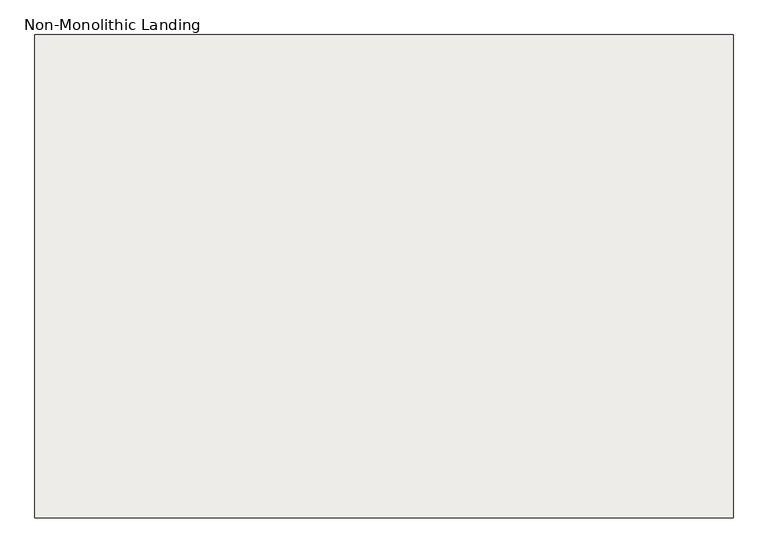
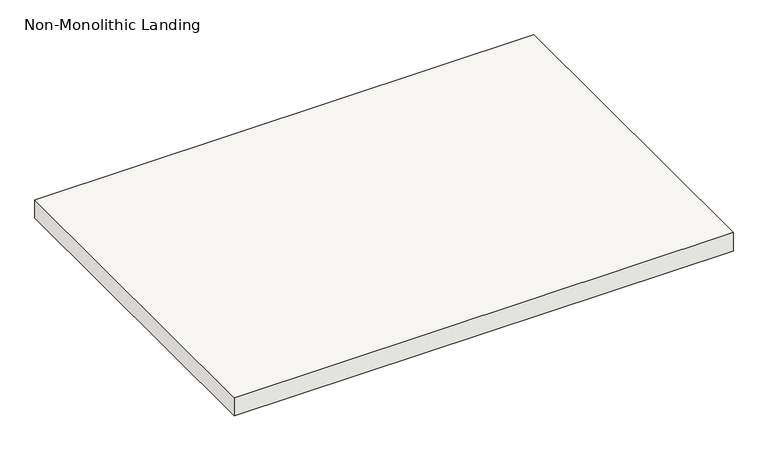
"""IFC4 building model written with IfcOpenShell, lengths in millimetres: slab geometry, Non-Monolithic Landing."""

from ifc_helpers import new_model, si_unit, frame, origin, place, context, project, spatial, polyline, outline, extrude, source, transform, mapped, element, save


def non_monolithic_landing_48cf3190(model_context):
    return source(origin(), model_context, "Body", "SweptSolid", [
        extrude(outline(polyline([(32923.1991768, 29614.9361774), (34243.9991768, 29614.9361774), (34243.9991768, 28700.5361774), (32923.1991768, 28700.5361774), (32923.1991768, 29614.9361774)])), frame((0.0, 0.0, 2126.3428571), z_axis=(0.0, 0.0, 1.0), x_axis=(1.0, 0.0, 0.0)), (0.0, 0.0, 1.0), 50.8),
    ])


if __name__ == "__main__":
    model = new_model("IFC4")
    model_context = context("Model", 3, world=origin())
    ifc_project = project(units=[si_unit("LENGTHUNIT", "METRE", prefix="MILLI")], contexts=[model_context])
    site = spatial("IfcSite", under=ifc_project)
    building = spatial("IfcBuilding", under=site)
    placement = place(None, origin())
    non_monolithic_landing_shape = non_monolithic_landing_48cf3190(model_context)
    element("IfcSlab", 1, ObjectType="Non-Monolithic Landing", at=placement, inside=building, context=model_context, shape_type="MappedRepresentation", body=[
        mapped(non_monolithic_landing_shape, transform((0.0, 0.0, 0.0), x_axis=(1.0, 0.0, 0.0), y_axis=(0.0, 1.0, 0.0), z_axis=(0.0, 0.0, 1.0))),
    ])
    save(model, "model.ifc")
